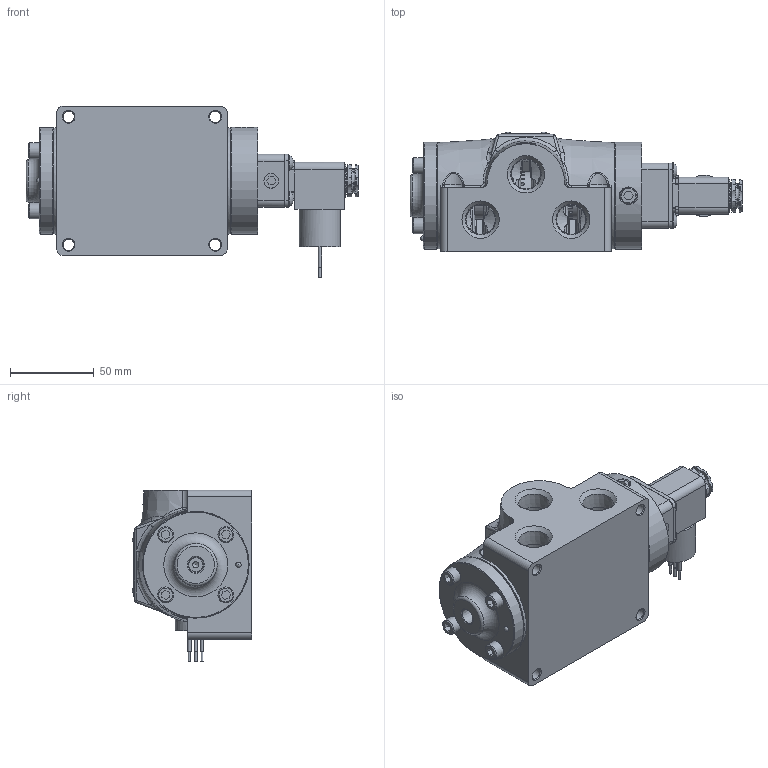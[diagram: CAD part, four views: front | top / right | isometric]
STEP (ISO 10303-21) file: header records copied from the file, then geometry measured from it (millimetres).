
FILE_DESCRIPTION(/* description */ (''),/* implementation_level */ '2;1');
FILE_NAME(/* name */ 'D:\Website Files\stp\Valves\Standard\ESR\ESR4JC.stp',/* time_stamp */ '2016-03-22T11:05:55-04:00',/* author */ ('RMcKenna'),/* organization */ (''),/* preprocessor_version */ 'ST-DEVELOPER v15.6',/* originating_system */ 'Autodesk Inventor 2015',/* authorisation */ '');
FILE_SCHEMA (('AUTOMOTIVE_DESIGN { 1 0 10303 214 3 1 1 }'));
Products named in the file (1): Part119
Bounding box: 197.71 x 71.21 x 102.24 mm (x, y, z)
Volume: 540244 mm3; surface area: 130088.6 mm2
Topology: 1 solids, 33 shells, 2184 faces, 5270 edges, 3291 vertices
Faces by surface type: plane 808, cylinder 547, cone 327, bspline 324, torus 155, sphere 23
Full cylindrical faces by diameter (mm): 1.168 x10, 1.3 x1, 1.397 x1, 1.5 x1, 1.524 x3, 2.007 x2, 2.032 x7, 2.07 x2, 2.261 x2, 2.35 x4, 2.388 x1, 2.778 x2, 2.8 x1, 2.819 x1, 3 x4, 3.048 x5, 3.175 x2, 3.4 x1, 3.683 x5, 3.962 x2, 4.191 x2, 4.826 x4, 4.953 x1, 4.978 x8, 5.15 x4, 5.156 x4, 5.5 x1, 6.35 x8, 6.553 x1, 6.629 x4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
Entity records: 76065 total; most frequent: CARTESIAN_POINT 27353, ORIENTED_EDGE 9544, DIRECTION 8891, EDGE_CURVE 4770, AXIS2_PLACEMENT_3D 3440, VERTEX_POINT 3132, EDGE_LOOP 2748, FACE_OUTER_BOUND 2183
